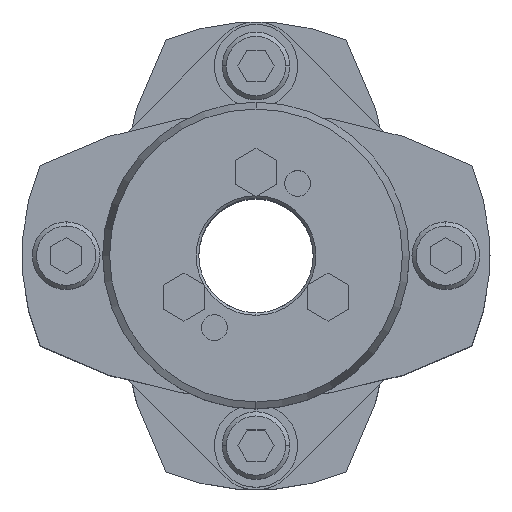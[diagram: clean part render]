
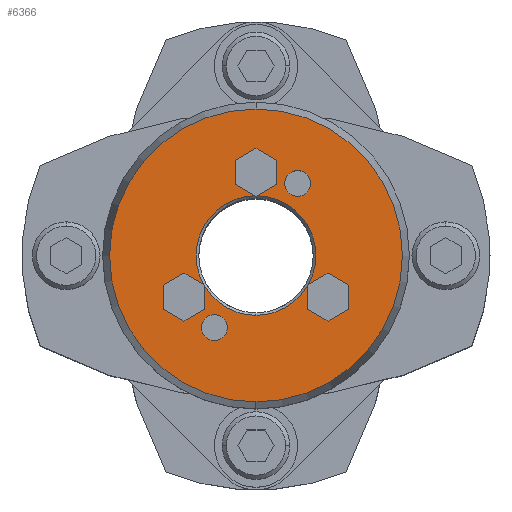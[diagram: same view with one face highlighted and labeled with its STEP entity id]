
A CAD part, top view. The second image highlights one B-rep face of the part: STEP entity #6366.
In plain terms, the highlighted planar face has unit normal (0, 0, 1).
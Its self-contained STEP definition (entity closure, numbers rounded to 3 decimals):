
#1694=CARTESIAN_POINT('',(0.,-11.5,52.0));
#1695=VERTEX_POINT('',#1694);
#1702=CARTESIAN_POINT('',(9.856,-5.925,52.0));
#1703=VERTEX_POINT('',#1702);
#1704=CARTESIAN_POINT('',(0.,0.,52.0));
#1705=DIRECTION('',(0.0,0.0,1.0));
#1706=DIRECTION('',(0.0,1.0,0.0));
#1707=AXIS2_PLACEMENT_3D('',#1704,#1705,#1706);
#1708=CIRCLE('',#1707,11.5);
#1709=EDGE_CURVE('',#1695,#1703,#1708,.T.);
#1711=CARTESIAN_POINT('',(10.059,-5.574,52.0));
#1712=VERTEX_POINT('',#1711);
#1720=CARTESIAN_POINT('',(0.203,11.498,52.0));
#1721=VERTEX_POINT('',#1720);
#1722=CARTESIAN_POINT('',(0.,0.,52.0));
#1723=DIRECTION('',(0.0,0.0,1.0));
#1724=DIRECTION('',(0.0,1.0,0.0));
#1725=AXIS2_PLACEMENT_3D('',#1722,#1723,#1724);
#1726=CIRCLE('',#1725,11.5);
#1727=EDGE_CURVE('',#1712,#1721,#1726,.T.);
#1892=CARTESIAN_POINT('',(0.,-28.16,52.0));
#1893=VERTEX_POINT('',#1892);
#1900=CARTESIAN_POINT('',(0.,28.16,52.0));
#1901=VERTEX_POINT('',#1900);
#1902=CARTESIAN_POINT('',(0.,0.,52.0));
#1903=DIRECTION('',(0.0,0.0,-1.0));
#1904=DIRECTION('',(0.0,-1.0,0.0));
#1905=AXIS2_PLACEMENT_3D('',#1902,#1903,#1904);
#1906=CIRCLE('',#1905,28.16);
#1907=EDGE_CURVE('',#1893,#1901,#1906,.T.);
#2150=CARTESIAN_POINT('',(8.,16.356,52.0));
#2151=VERTEX_POINT('',#2150);
#2167=CARTESIAN_POINT('',(8.,11.356,52.0));
#2168=VERTEX_POINT('',#2167);
#2175=CARTESIAN_POINT('',(8.,13.856,52.0));
#2176=DIRECTION('',(0.0,0.0,-1.0));
#2177=DIRECTION('',(0.0,1.0,0.0));
#2178=AXIS2_PLACEMENT_3D('',#2175,#2176,#2177);
#2179=CIRCLE('',#2178,2.5);
#2180=EDGE_CURVE('',#2151,#2168,#2179,.T.);
#2192=CARTESIAN_POINT('',(-8.,-11.356,52.0));
#2193=VERTEX_POINT('',#2192);
#2209=CARTESIAN_POINT('',(-8.,-16.356,52.0));
#2210=VERTEX_POINT('',#2209);
#2217=CARTESIAN_POINT('',(-8.,-13.856,52.0));
#2218=DIRECTION('',(0.0,0.0,-1.0));
#2219=DIRECTION('',(0.0,1.0,0.0));
#2220=AXIS2_PLACEMENT_3D('',#2217,#2218,#2219);
#2221=CIRCLE('',#2220,2.5);
#2222=EDGE_CURVE('',#2193,#2210,#2221,.T.);
#4792=CARTESIAN_POINT('',(13.856,-3.381,52.0));
#4793=VERTEX_POINT('',#4792);
#4800=CARTESIAN_POINT('',(10.059,-5.574,52.0));
#4801=DIRECTION('',(0.866,0.5,0.0));
#4802=VECTOR('',#4801,4.385);
#4803=LINE('',#4800,#4802);
#4804=EDGE_CURVE('',#1712,#4793,#4803,.T.);
#4836=CARTESIAN_POINT('',(17.856,-5.691,52.0));
#4837=VERTEX_POINT('',#4836);
#4844=CARTESIAN_POINT('',(13.856,-3.381,52.0));
#4845=DIRECTION('',(0.866,-0.5,0.0));
#4846=VECTOR('',#4845,4.619);
#4847=LINE('',#4844,#4846);
#4848=EDGE_CURVE('',#4793,#4837,#4847,.T.);
#4867=CARTESIAN_POINT('',(17.856,-10.309,52.0));
#4868=VERTEX_POINT('',#4867);
#4875=CARTESIAN_POINT('',(17.856,-5.691,52.0));
#4876=DIRECTION('',(0.0,-1.0,0.0));
#4877=VECTOR('',#4876,4.619);
#4878=LINE('',#4875,#4877);
#4879=EDGE_CURVE('',#4837,#4868,#4878,.T.);
#4898=CARTESIAN_POINT('',(13.856,-12.619,52.0));
#4899=VERTEX_POINT('',#4898);
#4906=CARTESIAN_POINT('',(17.856,-10.309,52.0));
#4907=DIRECTION('',(-0.866,-0.5,0.0));
#4908=VECTOR('',#4907,4.619);
#4909=LINE('',#4906,#4908);
#4910=EDGE_CURVE('',#4868,#4899,#4909,.T.);
#4929=CARTESIAN_POINT('',(9.856,-10.309,52.0));
#4930=VERTEX_POINT('',#4929);
#4937=CARTESIAN_POINT('',(13.856,-12.619,52.0));
#4938=DIRECTION('',(-0.866,0.5,0.0));
#4939=VECTOR('',#4938,4.619);
#4940=LINE('',#4937,#4939);
#4941=EDGE_CURVE('',#4899,#4930,#4940,.T.);
#4965=CARTESIAN_POINT('',(9.856,-10.309,52.0));
#4966=DIRECTION('',(0.0,1.0,0.0));
#4967=VECTOR('',#4966,4.385);
#4968=LINE('',#4965,#4967);
#4969=EDGE_CURVE('',#4930,#1703,#4968,.T.);
#5015=CARTESIAN_POINT('',(0.,20.619,52.0));
#5016=VERTEX_POINT('',#5015);
#5023=CARTESIAN_POINT('',(-4.,18.309,52.0));
#5024=VERTEX_POINT('',#5023);
#5025=CARTESIAN_POINT('',(-4.,18.309,52.0));
#5026=DIRECTION('',(0.866,0.5,0.0));
#5027=VECTOR('',#5026,4.619);
#5028=LINE('',#5025,#5027);
#5029=EDGE_CURVE('',#5024,#5016,#5028,.T.);
#5053=CARTESIAN_POINT('',(4.,18.309,52.0));
#5054=VERTEX_POINT('',#5053);
#5061=CARTESIAN_POINT('',(0.,20.619,52.0));
#5062=DIRECTION('',(0.866,-0.5,0.0));
#5063=VECTOR('',#5062,4.619);
#5064=LINE('',#5061,#5063);
#5065=EDGE_CURVE('',#5016,#5054,#5064,.T.);
#5084=CARTESIAN_POINT('',(4.,13.691,52.0));
#5085=VERTEX_POINT('',#5084);
#5092=CARTESIAN_POINT('',(4.,18.309,52.0));
#5093=DIRECTION('',(0.0,-1.0,0.0));
#5094=VECTOR('',#5093,4.619);
#5095=LINE('',#5092,#5094);
#5096=EDGE_CURVE('',#5054,#5085,#5095,.T.);
#5129=CARTESIAN_POINT('',(4.,13.691,52.0));
#5130=DIRECTION('',(-0.866,-0.5,0.0));
#5131=VECTOR('',#5130,4.385);
#5132=LINE('',#5129,#5131);
#5133=EDGE_CURVE('',#5085,#1721,#5132,.T.);
#5152=CARTESIAN_POINT('',(-4.,13.691,52.0));
#5153=VERTEX_POINT('',#5152);
#5160=CARTESIAN_POINT('',(-0.203,11.498,52.0));
#5161=VERTEX_POINT('',#5160);
#5162=CARTESIAN_POINT('',(-0.203,11.498,52.0));
#5163=DIRECTION('',(-0.866,0.5,0.0));
#5164=VECTOR('',#5163,4.385);
#5165=LINE('',#5162,#5164);
#5166=EDGE_CURVE('',#5161,#5153,#5165,.T.);
#5190=CARTESIAN_POINT('',(-4.,13.691,52.0));
#5191=DIRECTION('',(0.0,1.0,0.0));
#5192=VECTOR('',#5191,4.619);
#5193=LINE('',#5190,#5192);
#5194=EDGE_CURVE('',#5153,#5024,#5193,.T.);
#5247=CARTESIAN_POINT('',(-13.856,-3.381,52.0));
#5248=VERTEX_POINT('',#5247);
#5255=CARTESIAN_POINT('',(-17.856,-5.691,52.0));
#5256=VERTEX_POINT('',#5255);
#5257=CARTESIAN_POINT('',(-17.856,-5.691,52.0));
#5258=DIRECTION('',(0.866,0.5,0.0));
#5259=VECTOR('',#5258,4.619);
#5260=LINE('',#5257,#5259);
#5261=EDGE_CURVE('',#5256,#5248,#5260,.T.);
#5293=CARTESIAN_POINT('',(-10.059,-5.574,52.0));
#5294=VERTEX_POINT('',#5293);
#5301=CARTESIAN_POINT('',(-13.856,-3.381,52.0));
#5302=DIRECTION('',(0.866,-0.5,0.0));
#5303=VECTOR('',#5302,4.385);
#5304=LINE('',#5301,#5303);
#5305=EDGE_CURVE('',#5248,#5294,#5304,.T.);
#5324=CARTESIAN_POINT('',(-9.856,-10.309,52.0));
#5325=VERTEX_POINT('',#5324);
#5332=CARTESIAN_POINT('',(-9.856,-5.925,52.0));
#5333=VERTEX_POINT('',#5332);
#5334=CARTESIAN_POINT('',(-9.856,-5.925,52.0));
#5335=DIRECTION('',(0.0,-1.0,0.0));
#5336=VECTOR('',#5335,4.385);
#5337=LINE('',#5334,#5336);
#5338=EDGE_CURVE('',#5333,#5325,#5337,.T.);
#5363=CARTESIAN_POINT('',(-13.856,-12.619,52.0));
#5364=VERTEX_POINT('',#5363);
#5371=CARTESIAN_POINT('',(-9.856,-10.309,52.0));
#5372=DIRECTION('',(-0.866,-0.5,0.0));
#5373=VECTOR('',#5372,4.619);
#5374=LINE('',#5371,#5373);
#5375=EDGE_CURVE('',#5325,#5364,#5374,.T.);
#5394=CARTESIAN_POINT('',(-17.856,-10.309,52.0));
#5395=VERTEX_POINT('',#5394);
#5402=CARTESIAN_POINT('',(-13.856,-12.619,52.0));
#5403=DIRECTION('',(-0.866,0.5,0.0));
#5404=VECTOR('',#5403,4.619);
#5405=LINE('',#5402,#5404);
#5406=EDGE_CURVE('',#5364,#5395,#5405,.T.);
#5424=CARTESIAN_POINT('',(-17.856,-10.309,52.0));
#5425=DIRECTION('',(0.0,1.0,0.0));
#5426=VECTOR('',#5425,4.619);
#5427=LINE('',#5424,#5426);
#5428=EDGE_CURVE('',#5395,#5256,#5427,.T.);
#5471=CARTESIAN_POINT('',(-8.,-13.856,52.0));
#5472=DIRECTION('',(0.0,0.0,-1.0));
#5473=DIRECTION('',(0.0,1.0,0.0));
#5474=AXIS2_PLACEMENT_3D('',#5471,#5472,#5473);
#5475=CIRCLE('',#5474,2.5);
#5476=EDGE_CURVE('',#2210,#2193,#5475,.T.);
#5505=CARTESIAN_POINT('',(8.,13.856,52.0));
#5506=DIRECTION('',(0.0,0.0,-1.0));
#5507=DIRECTION('',(0.0,1.0,0.0));
#5508=AXIS2_PLACEMENT_3D('',#5505,#5506,#5507);
#5509=CIRCLE('',#5508,2.5);
#5510=EDGE_CURVE('',#2168,#2151,#5509,.T.);
#6303=CARTESIAN_POINT('',(0.,0.,52.0));
#6304=DIRECTION('',(0.0,0.0,-1.0));
#6305=DIRECTION('',(0.0,-1.0,0.0));
#6306=AXIS2_PLACEMENT_3D('',#6303,#6304,#6305);
#6307=CIRCLE('',#6306,28.16);
#6308=EDGE_CURVE('',#1901,#1893,#6307,.T.);
#6313=CARTESIAN_POINT('',(0.,2.682,52.0));
#6314=DIRECTION('',(0.0,0.0,1.0));
#6315=DIRECTION('',(0.0,1.0,0.0));
#6316=AXIS2_PLACEMENT_3D('',#6313,#6314,#6315);
#6317=PLANE('',#6316);
#6318=ORIENTED_EDGE('',*,*,#6308,.F.);
#6319=ORIENTED_EDGE('',*,*,#1907,.F.);
#6320=EDGE_LOOP('',(#6318,#6319));
#6321=FACE_OUTER_BOUND('',#6320,.T.);
#6322=ORIENTED_EDGE('',*,*,#4969,.T.);
#6323=ORIENTED_EDGE('',*,*,#1709,.F.);
#6324=CARTESIAN_POINT('',(0.,0.,52.0));
#6325=DIRECTION('',(0.0,0.0,1.0));
#6326=DIRECTION('',(0.0,1.0,0.0));
#6327=AXIS2_PLACEMENT_3D('',#6324,#6325,#6326);
#6328=CIRCLE('',#6327,11.5);
#6329=EDGE_CURVE('',#5333,#1695,#6328,.T.);
#6330=ORIENTED_EDGE('',*,*,#6329,.F.);
#6331=ORIENTED_EDGE('',*,*,#5338,.T.);
#6332=ORIENTED_EDGE('',*,*,#5375,.T.);
#6333=ORIENTED_EDGE('',*,*,#5406,.T.);
#6334=ORIENTED_EDGE('',*,*,#5428,.T.);
#6335=ORIENTED_EDGE('',*,*,#5261,.T.);
#6336=ORIENTED_EDGE('',*,*,#5305,.T.);
#6337=CARTESIAN_POINT('',(0.,0.,52.0));
#6338=DIRECTION('',(0.0,0.0,1.0));
#6339=DIRECTION('',(0.0,1.0,0.0));
#6340=AXIS2_PLACEMENT_3D('',#6337,#6338,#6339);
#6341=CIRCLE('',#6340,11.5);
#6342=EDGE_CURVE('',#5161,#5294,#6341,.T.);
#6343=ORIENTED_EDGE('',*,*,#6342,.F.);
#6344=ORIENTED_EDGE('',*,*,#5166,.T.);
#6345=ORIENTED_EDGE('',*,*,#5194,.T.);
#6346=ORIENTED_EDGE('',*,*,#5029,.T.);
#6347=ORIENTED_EDGE('',*,*,#5065,.T.);
#6348=ORIENTED_EDGE('',*,*,#5096,.T.);
#6349=ORIENTED_EDGE('',*,*,#5133,.T.);
#6350=ORIENTED_EDGE('',*,*,#1727,.F.);
#6351=ORIENTED_EDGE('',*,*,#4804,.T.);
#6352=ORIENTED_EDGE('',*,*,#4848,.T.);
#6353=ORIENTED_EDGE('',*,*,#4879,.T.);
#6354=ORIENTED_EDGE('',*,*,#4910,.T.);
#6355=ORIENTED_EDGE('',*,*,#4941,.T.);
#6356=EDGE_LOOP('',(#6322,#6323,#6330,#6331,#6332,#6333,#6334,#6335,#6336,#6343,#6344,#6345,#6346,#6347,#6348,#6349,#6350,#6351,#6352,#6353,#6354,#6355));
#6357=FACE_BOUND('',#6356,.T.);
#6358=ORIENTED_EDGE('',*,*,#2222,.T.);
#6359=ORIENTED_EDGE('',*,*,#5476,.T.);
#6360=EDGE_LOOP('',(#6358,#6359));
#6361=FACE_BOUND('',#6360,.T.);
#6362=ORIENTED_EDGE('',*,*,#2180,.T.);
#6363=ORIENTED_EDGE('',*,*,#5510,.T.);
#6364=EDGE_LOOP('',(#6362,#6363));
#6365=FACE_BOUND('',#6364,.T.);
#6366=ADVANCED_FACE('',(#6321,#6357,#6361,#6365),#6317,.T.);
